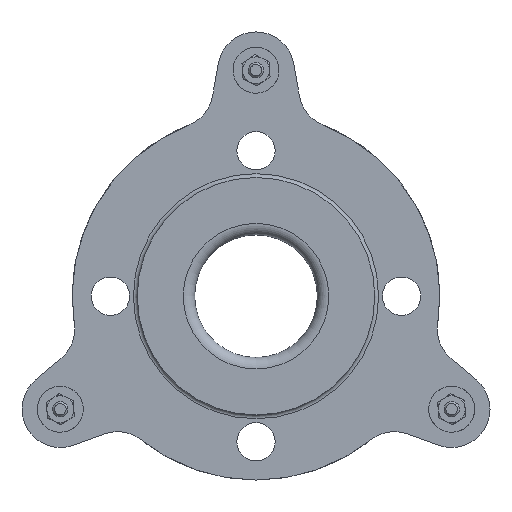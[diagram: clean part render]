
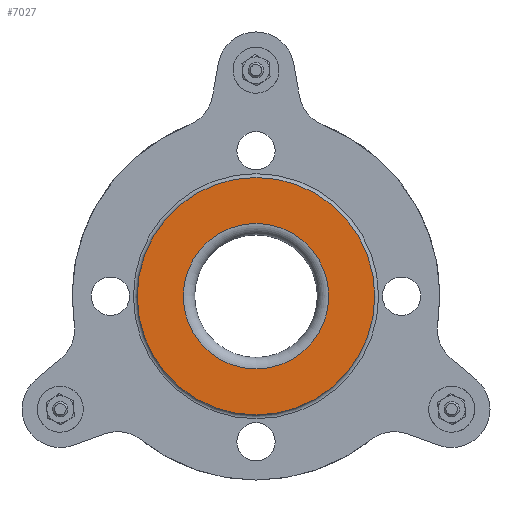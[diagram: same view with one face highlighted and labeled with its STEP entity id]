
A CAD part, front view. The second image highlights one B-rep face of the part: STEP entity #7027.
In plain terms, the highlighted planar face has unit normal (0, -1, 0).
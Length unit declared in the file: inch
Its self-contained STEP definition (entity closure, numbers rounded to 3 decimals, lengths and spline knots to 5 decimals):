
#817=PLANE('',#7846);
#1374=FACE_BOUND('',#2380,.T.);
#1724=FACE_OUTER_BOUND('',#2379,.T.);
#2379=EDGE_LOOP('',(#5780));
#2380=EDGE_LOOP('',(#5781));
#2904=CIRCLE('',#7770,1.9375);
#2941=CIRCLE('',#7845,1.1875);
#3441=VERTEX_POINT('',#11925);
#3478=VERTEX_POINT('',#12037);
#4238=EDGE_CURVE('',#3441,#3441,#2904,.T.);
#4275=EDGE_CURVE('',#3478,#3478,#2941,.T.);
#5780=ORIENTED_EDGE('',*,*,#4238,.F.);
#5781=ORIENTED_EDGE('',*,*,#4275,.T.);
#7027=ADVANCED_FACE('',(#1724,#1374),#817,.T.);
#7770=AXIS2_PLACEMENT_3D('',#11926,#9368,#9369);
#7845=AXIS2_PLACEMENT_3D('',#12038,#9518,#9519);
#7846=AXIS2_PLACEMENT_3D('',#12039,#9520,#9521);
#9368=DIRECTION('center_axis',(0.,1.,0.));
#9369=DIRECTION('ref_axis',(1.,0.,0.));
#9518=DIRECTION('center_axis',(0.,1.,0.));
#9519=DIRECTION('ref_axis',(1.,0.,0.));
#9520=DIRECTION('center_axis',(0.,-1.,0.));
#9521=DIRECTION('ref_axis',(-1.,0.,0.));
#11925=CARTESIAN_POINT('',(3.20404,-3.125,-1.9375));
#11926=CARTESIAN_POINT('Origin',(3.20404,-3.125,0.));
#12037=CARTESIAN_POINT('',(3.20404,-3.125,-1.1875));
#12038=CARTESIAN_POINT('Origin',(3.20404,-3.125,0.));
#12039=CARTESIAN_POINT('Origin',(3.20404,-3.125,-1.9375));
